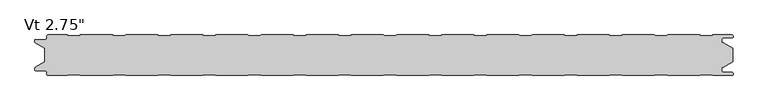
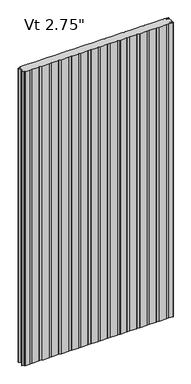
"""IFC4 building model written with IfcOpenShell, lengths in millimetres: plate geometry."""

from ifc_helpers import new_model, si_unit, frame, origin, place, context, project, spatial, polyline, circle_curve, source, transform, mapped, element, save
from ifc_brep_helpers import plane_surface, cylinder_surface, revolved_surface, advanced_brep


def plate_316c0869(model_context):
    return source(origin(), model_context, "Body", "AdvancedBrep", [
        advanced_brep(
        [(521.5205195, -67.7088405, 2400.0), (541.3035142, -67.7088405, 2400.0), (542.3760351, -68.8999956, 2400.0), (574.5475652, -68.8999956, 2400.0), (576.5248337, -66.9227271, 2400.0), (576.5248337, -65.8806285, 2400.0), (574.5475652, -63.90336, 2400.0), (560.3591802, -63.90336, 2400.0), (557.7713036, -61.3154835, 2400.0), (557.7713036, -56.9950653, 2400.0), (557.1628365, -56.4060718, 2400.0), (554.7857432, -56.4060718, 2400.0), (554.7857432, -55.4065979, 2400.0), (560.2280123, -55.4065979, 2400.0), (576.2625, -46.1490821, 2400.0), (576.2625, -23.7509179, 2400.0), (560.2280123, -14.4934021, 2400.0), (554.7857432, -14.4934021, 2400.0), (554.7857432, -13.4939282, 2400.0), (557.1628365, -13.4939282, 2400.0), (557.7713036, -12.9049347, 2400.0), (557.7713036, -8.5845165, 2400.0), (560.3591802, -5.99664, 2400.0), (574.5475652, -5.99664, 2400.0), (576.5248337, -4.0193715, 2400.0), (576.5248337, -2.9772729, 2400.0), (574.5475652, -1.0000044, 2400.0), (542.3760351, -1.0000044, 2400.0), (541.3035142, -2.1911595, 2400.0), (521.5205195, -2.1911595, 2400.0), (520.4479947, -1.0, 2400.0), (466.7534187, -1.0, 2400.0), (465.6808939, -2.1911595, 2400.0), (445.8978992, -2.1911595, 2400.0), (444.8253744, -1.0, 2400.0), (391.1307985, -1.0, 2400.0), (390.0582736, -2.1911595, 2400.0), (370.275279, -2.1911595, 2400.0), (369.2027541, -1.0, 2400.0), (315.5081782, -1.0, 2400.0), (314.4356534, -2.1911595, 2400.0), (294.6526587, -2.1911595, 2400.0), (293.5801339, -1.0, 2400.0), (239.885558, -1.0, 2400.0), (238.8130331, -2.1911595, 2400.0), (219.0300384, -2.1911595, 2400.0), (217.9575136, -1.0, 2400.0), (164.2629377, -1.0, 2400.0), (163.1904129, -2.1911595, 2400.0), (143.4074182, -2.1911595, 2400.0), (142.3348933, -1.0, 2400.0), (88.6403174, -1.0, 2400.0), (87.5677926, -2.1911595, 2400.0), (67.7847979, -2.1911595, 2400.0), (66.7122731, -1.0, 2400.0), (13.0176972, -1.0, 2400.0), (11.9451723, -2.1911595, 2400.0), (-7.8378224, -2.1911595, 2400.0), (-8.9103472, -1.0, 2400.0), (-62.6049231, -1.0, 2400.0), (-63.6774479, -2.1911595, 2400.0), (-83.4604426, -2.1911595, 2400.0), (-84.5329675, -1.0, 2400.0), (-138.2275434, -1.0, 2400.0), (-139.3000682, -2.1911595, 2400.0), (-159.0830629, -2.1911595, 2400.0), (-160.1555877, -1.0, 2400.0), (-213.8501636, -1.0, 2400.0), (-214.9226885, -2.1911595, 2400.0), (-234.7056831, -2.1911595, 2400.0), (-235.778208, -1.0, 2400.0), (-289.4727839, -1.0, 2400.0), (-290.5453087, -2.1911595, 2400.0), (-310.3283034, -2.1911595, 2400.0), (-311.4008282, -1.0, 2400.0), (-365.0954042, -1.0, 2400.0), (-366.167929, -2.1911595, 2400.0), (-385.9509237, -2.1911595, 2400.0), (-387.0234485, -1.0, 2400.0), (-440.7180244, -1.0, 2400.0), (-441.7905493, -2.1911595, 2400.0), (-461.5735439, -2.1911595, 2400.0), (-462.6460688, -1.0, 2400.0), (-516.3406447, -1.0, 2400.0), (-517.4131695, -2.1911595, 2400.0), (-537.1961642, -2.1911595, 2400.0), (-538.268689, -1.0000109, 2400.0), (-570.4352761, -1.0000109, 2400.0), (-572.4125501, -2.9772849, 2400.0), (-572.4125501, -5.2691749, 2400.0), (-576.3898173, -9.246442, 2400.0), (-591.9862417, -9.246442, 2400.0), (-592.5741186, -9.8343189, 2400.0), (-592.5741186, -12.9058679, 2400.0), (-591.986242, -13.4937446, 2400.0), (-589.6312064, -13.4937446, 2400.0), (-589.6312064, -14.4937446, 2400.0), (-591.9207851, -14.4937446, 2400.0), (-576.2625, -23.7509179, 2400.0), (-576.2625, -46.1490865, 2400.0), (-591.9207851, -55.4062554, 2400.0), (-589.6312064, -55.4062554, 2400.0), (-589.6312064, -56.4062554, 2400.0), (-591.986242, -56.4062554, 2400.0), (-592.5741186, -56.9941321, 2400.0), (-592.5741186, -60.0656811, 2400.0), (-591.9862417, -60.653558, 2400.0), (-576.3898173, -60.653558, 2400.0), (-572.4125501, -64.6308251, 2400.0), (-572.4125501, -66.9227151, 2400.0), (-570.4352761, -68.8999891, 2400.0), (-538.268689, -68.8999891, 2400.0), (-537.1961642, -67.7088405, 2400.0), (-517.4131695, -67.7088405, 2400.0), (-516.3406447, -68.9, 2400.0), (-462.6460688, -68.9, 2400.0), (-461.5735439, -67.7088405, 2400.0), (-441.7905493, -67.7088405, 2400.0), (-440.7180244, -68.9, 2400.0), (-387.0234485, -68.9, 2400.0), (-385.9509237, -67.7088405, 2400.0), (-366.167929, -67.7088405, 2400.0), (-365.0954042, -68.9, 2400.0), (-311.4008282, -68.9, 2400.0), (-310.3283034, -67.7088405, 2400.0), (-290.5453087, -67.7088405, 2400.0), (-289.4727839, -68.9, 2400.0), (-235.778208, -68.9, 2400.0), (-234.7056831, -67.7088405, 2400.0), (-214.9226885, -67.7088405, 2400.0), (-213.8501636, -68.9, 2400.0), (-160.1555877, -68.9, 2400.0), (-159.0830629, -67.7088405, 2400.0), (-139.3000682, -67.7088405, 2400.0), (-138.2275434, -68.9, 2400.0), (-84.5329675, -68.9, 2400.0), (-83.4604426, -67.7088405, 2400.0), (-63.6774479, -67.7088405, 2400.0), (-62.6049231, -68.9, 2400.0), (-8.9103472, -68.9, 2400.0), (-7.8378224, -67.7088405, 2400.0), (11.9451723, -67.7088405, 2400.0), (13.0176972, -68.9, 2400.0), (66.7122731, -68.9, 2400.0), (67.7847979, -67.7088405, 2400.0), (87.5677926, -67.7088405, 2400.0), (88.6403174, -68.9, 2400.0), (142.3348933, -68.9, 2400.0), (143.4074182, -67.7088405, 2400.0), (163.1904129, -67.7088405, 2400.0), (164.2629377, -68.9, 2400.0), (217.9575136, -68.9, 2400.0), (219.0300384, -67.7088405, 2400.0), (238.8130331, -67.7088405, 2400.0), (239.885558, -68.9, 2400.0), (293.5801339, -68.9, 2400.0), (294.6526587, -67.7088405, 2400.0), (314.4356534, -67.7088405, 2400.0), (315.5081782, -68.9, 2400.0), (369.2027541, -68.9, 2400.0), (370.275279, -67.7088405, 2400.0), (390.0582736, -67.7088405, 2400.0), (391.1307985, -68.9, 2400.0), (444.8253744, -68.9, 2400.0), (445.8978992, -67.7088405, 2400.0), (465.6808939, -67.7088405, 2400.0), (466.7534187, -68.9, 2400.0), (520.4479947, -68.9, 2400.0), (521.5205195, -67.7088405, 0.0), (520.4479947, -68.9, 0.0), (466.7534187, -68.9, 0.0), (465.6808939, -67.7088405, 0.0), (445.8978992, -67.7088405, 0.0), (444.8253744, -68.9, 0.0), (391.1307985, -68.9, 0.0), (390.0582736, -67.7088405, 0.0), (370.275279, -67.7088405, 0.0), (369.2027541, -68.9, 0.0), (315.5081782, -68.9, 0.0), (314.4356534, -67.7088405, 0.0), (294.6526587, -67.7088405, 0.0), (293.5801339, -68.9, 0.0), (239.885558, -68.9, 0.0), (238.8130331, -67.7088405, 0.0), (219.0300384, -67.7088405, 0.0), (217.9575136, -68.9, 0.0), (164.2629377, -68.9, 0.0), (163.1904129, -67.7088405, 0.0), (143.4074182, -67.7088405, 0.0), (142.3348933, -68.9, 0.0), (88.6403174, -68.9, 0.0), (87.5677926, -67.7088405, 0.0), (67.7847979, -67.7088405, 0.0), (66.7122731, -68.9, 0.0), (13.0176972, -68.9, 0.0), (11.9451723, -67.7088405, 0.0), (-7.8378224, -67.7088405, 0.0), (-8.9103472, -68.9, 0.0), (-62.6049231, -68.9, 0.0), (-63.6774479, -67.7088405, 0.0), (-83.4604426, -67.7088405, 0.0), (-84.5329675, -68.9, 0.0), (-138.2275434, -68.9, 0.0), (-139.3000682, -67.7088405, 0.0), (-159.0830629, -67.7088405, 0.0), (-160.1555877, -68.9, 0.0), (-213.8501636, -68.9, 0.0), (-214.9226885, -67.7088405, 0.0), (-234.7056831, -67.7088405, 0.0), (-235.778208, -68.9, 0.0), (-289.4727839, -68.9, 0.0), (-290.5453087, -67.7088405, 0.0), (-310.3283034, -67.7088405, 0.0), (-311.4008282, -68.9, 0.0), (-365.0954042, -68.9, 0.0), (-366.167929, -67.7088405, 0.0), (-385.9509237, -67.7088405, 0.0), (-387.0234485, -68.9, 0.0), (-440.7180244, -68.9, 0.0), (-441.7905493, -67.7088405, 0.0), (-461.5735439, -67.7088405, 0.0), (-462.6460688, -68.9, 0.0), (-516.3406447, -68.9, 0.0), (-517.4131695, -67.7088405, 0.0), (-537.1961642, -67.7088405, 0.0), (-538.268689, -68.8999891, 0.0), (-570.4352761, -68.8999891, 0.0), (-572.4125501, -66.9227151, 0.0), (-572.4125501, -64.6308251, 0.0), (-576.3898173, -60.653558, 0.0), (-591.9862417, -60.653558, 0.0), (-592.5741186, -60.0656811, 0.0), (-592.5741186, -56.9941321, 0.0), (-591.986242, -56.4062554, 0.0), (-589.6312064, -56.4062554, 0.0), (-589.6312064, -55.4062554, 0.0), (-591.9207851, -55.4062554, 0.0), (-576.2625, -46.1490821, 0.0), (-576.2625, -23.7509179, 0.0), (-591.9207851, -14.4937446, 0.0), (-589.6312064, -14.4937446, 0.0), (-589.6312064, -13.4937446, 0.0), (-591.986242, -13.4937446, 0.0), (-592.5741186, -12.9058679, 0.0), (-592.5741186, -9.8343189, 0.0), (-591.9862417, -9.246442, 0.0), (-576.3898173, -9.246442, 0.0), (-572.4125501, -5.2691749, 0.0), (-572.4125501, -2.9772849, 0.0), (-570.4352761, -1.0000109, 0.0), (-538.268689, -1.0000109, 0.0), (-537.1961642, -2.1911595, 0.0), (-517.4131695, -2.1911595, 0.0), (-516.3406447, -1.0, 0.0), (-462.6460688, -1.0, 0.0), (-461.5735439, -2.1911595, 0.0), (-441.7905493, -2.1911595, 0.0), (-440.7180244, -1.0, 0.0), (-387.0234485, -1.0, 0.0), (-385.9509237, -2.1911595, 0.0), (-366.167929, -2.1911595, 0.0), (-365.0954042, -1.0, 0.0), (-311.4008282, -1.0, 0.0), (-310.3283034, -2.1911595, 0.0), (-290.5453087, -2.1911595, 0.0), (-289.4727839, -1.0, 0.0), (-235.778208, -1.0, 0.0), (-234.7056831, -2.1911595, 0.0), (-214.9226885, -2.1911595, 0.0), (-213.8501636, -1.0, 0.0), (-160.1555877, -1.0, 0.0), (-159.0830629, -2.1911595, 0.0), (-139.3000682, -2.1911595, 0.0), (-138.2275434, -1.0, 0.0), (-84.5329675, -1.0, 0.0), (-83.4604426, -2.1911595, 0.0), (-63.6774479, -2.1911595, 0.0), (-62.6049231, -1.0, 0.0), (-8.9103472, -1.0, 0.0), (-7.8378224, -2.1911595, 0.0), (11.9451723, -2.1911595, 0.0), (13.0176972, -1.0, 0.0), (66.7122731, -1.0, 0.0), (67.7847979, -2.1911595, 0.0), (87.5677926, -2.1911595, 0.0), (88.6403174, -1.0, 0.0), (142.3348933, -1.0, 0.0), (143.4074182, -2.1911595, 0.0), (163.1904129, -2.1911595, 0.0), (164.2629377, -1.0, 0.0), (217.9575136, -1.0, 0.0), (219.0300384, -2.1911595, 0.0), (238.8130331, -2.1911595, 0.0), (239.885558, -1.0, 0.0), (293.5801339, -1.0, 0.0), (294.6526587, -2.1911595, 0.0), (314.4356534, -2.1911595, 0.0), (315.5081782, -1.0, 0.0), (369.2027541, -1.0, 0.0), (370.275279, -2.1911595, 0.0), (390.0582736, -2.1911595, 0.0), (391.1307985, -1.0, 0.0), (444.8253744, -1.0, 0.0), (445.8978992, -2.1911595, 0.0), (465.6808939, -2.1911595, 0.0), (466.7534187, -1.0, 0.0), (520.4479947, -1.0, 0.0), (521.5205195, -2.1911595, 0.0), (541.3035142, -2.1911595, 0.0), (542.3760351, -1.0000044, 0.0), (574.5475652, -1.0000044, 0.0), (576.5248337, -2.9772729, 0.0), (576.5248337, -4.0193715, 0.0), (574.5475652, -5.99664, 0.0), (560.3591802, -5.99664, 0.0), (557.7713036, -8.5845165, 0.0), (557.7713036, -12.9049347, 0.0), (557.1628365, -13.4939282, 0.0), (554.7857432, -13.4939282, 0.0), (554.7857432, -14.4934021, 0.0), (560.2280123, -14.4934021, 0.0), (576.2625, -23.7509179, 0.0), (576.2625, -46.1490865, 0.0), (560.2280123, -55.4065979, 0.0), (554.7857432, -55.4065979, 0.0), (554.7857432, -56.4060718, 0.0), (557.1628365, -56.4060718, 0.0), (557.7713036, -56.9950653, 0.0), (557.7713036, -61.3154835, 0.0), (560.3591802, -63.90336, 0.0), (574.5475652, -63.90336, 0.0), (576.5248337, -65.8806285, 0.0), (576.5248337, -66.9227271, 0.0), (574.5475652, -68.8999956, 0.0), (542.3760351, -68.8999956, 0.0), (541.3035142, -67.7088405, 0.0)],
        [
            (0, 1),
            (1, 2),
            (2, 3),
            (3, 4, circle_curve(frame((574.5475652, -66.9227271, 2400.0), z_axis=(0.0, 0.0, 1.0), x_axis=(-1.0, 0.0, 0.0)), 1.9772685)),
            (4, 5),
            (5, 6, circle_curve(frame((574.5475652, -65.8806285, 2400.0), z_axis=(0.0, 0.0, 1.0), x_axis=(-1.0, 0.0, 0.0)), 1.9772685)),
            (6, 7),
            (7, 8, circle_curve(frame((560.3591802, -61.3154835, 2400.0), z_axis=(0.0, 0.0, -1.0), x_axis=(-1.0, 0.0, 0.0)), 2.5878765)),
            (8, 9),
            (9, 10, circle_curve(frame((557.1819985, -56.9950653, 2400.0), z_axis=(0.0, 0.0, 1.0), x_axis=(-1.0, 0.0, 0.0)), 0.5893051)),
            (10, 11),
            (11, 12),
            (12, 13),
            (13, 14),
            (14, 15),
            (15, 16),
            (16, 17),
            (17, 18),
            (18, 19),
            (19, 20, circle_curve(frame((557.1819985, -12.9049347, 2400.0), z_axis=(0.0, 0.0, 1.0), x_axis=(0.0, 1.0, 0.0)), 0.5893051)),
            (20, 21),
            (21, 22, circle_curve(frame((560.3591802, -8.5845165, 2400.0), z_axis=(0.0, 0.0, -1.0), x_axis=(0.0, 1.0, 0.0)), 2.5878765)),
            (22, 23),
            (23, 24, circle_curve(frame((574.5475652, -4.0193715, 2400.0), z_axis=(0.0, 0.0, 1.0), x_axis=(0.0, 1.0, 0.0)), 1.9772685)),
            (24, 25),
            (25, 26, circle_curve(frame((574.5475652, -2.9772729, 2400.0), z_axis=(0.0, 0.0, 1.0), x_axis=(0.0, 1.0, 0.0)), 1.9772685)),
            (26, 27),
            (27, 28),
            (28, 29),
            (29, 30),
            (30, 31),
            (31, 32),
            (32, 33),
            (33, 34),
            (34, 35),
            (35, 36),
            (36, 37),
            (37, 38),
            (38, 39),
            (39, 40),
            (40, 41),
            (41, 42),
            (42, 43),
            (43, 44),
            (44, 45),
            (45, 46),
            (46, 47),
            (47, 48),
            (48, 49),
            (49, 50),
            (50, 51),
            (51, 52),
            (52, 53),
            (53, 54),
            (54, 55),
            (55, 56),
            (56, 57),
            (57, 58),
            (58, 59),
            (59, 60),
            (60, 61),
            (61, 62),
            (62, 63),
            (63, 64),
            (64, 65),
            (65, 66),
            (66, 67),
            (67, 68),
            (68, 69),
            (69, 70),
            (70, 71),
            (71, 72),
            (72, 73),
            (73, 74),
            (74, 75),
            (75, 76),
            (76, 77),
            (77, 78),
            (78, 79),
            (79, 80),
            (80, 81),
            (81, 82),
            (82, 83),
            (83, 84),
            (84, 85),
            (85, 86),
            (86, 87),
            (87, 88, circle_curve(frame((-570.4352761, -2.9772849, 2400.0), z_axis=(0.0, 0.0, 1.0), x_axis=(0.0, 1.0, 0.0)), 1.977274)),
            (88, 89),
            (89, 90, circle_curve(frame((-576.3898173, -5.2691749, 2400.0), z_axis=(0.0, 0.0, -1.0), x_axis=(0.0, 1.0, 0.0)), 3.9772671)),
            (90, 91),
            (91, 92, circle_curve(frame((-591.9862417, -9.8343189, 2400.0), z_axis=(0.0, 0.0, 1.0), x_axis=(0.0, 1.0, 0.0)), 0.5878769)),
            (92, 93),
            (93, 94, circle_curve(frame((-591.986242, -12.9058679, 2400.0), z_axis=(0.0, 0.0, 1.0), x_axis=(0.0, 1.0, 0.0)), 0.5878766)),
            (94, 95),
            (95, 96),
            (96, 97),
            (97, 98),
            (98, 99),
            (99, 100),
            (100, 101),
            (101, 102),
            (102, 103),
            (103, 104, circle_curve(frame((-591.986242, -56.9941321, 2400.0), z_axis=(0.0, 0.0, 1.0), x_axis=(-1.0, 0.0, 0.0)), 0.5878766)),
            (104, 105),
            (105, 106, circle_curve(frame((-591.9862417, -60.0656811, 2400.0), z_axis=(0.0, 0.0, 1.0), x_axis=(-1.0, 0.0, 0.0)), 0.5878769)),
            (106, 107),
            (107, 108, circle_curve(frame((-576.3898173, -64.6308251, 2400.0), z_axis=(0.0, 0.0, -1.0), x_axis=(-1.0, 0.0, 0.0)), 3.9772671)),
            (108, 109),
            (109, 110, circle_curve(frame((-570.4352761, -66.9227151, 2400.0), z_axis=(0.0, 0.0, 1.0), x_axis=(-1.0, 0.0, 0.0)), 1.977274)),
            (110, 111),
            (111, 112),
            (112, 113),
            (113, 114),
            (114, 115),
            (115, 116),
            (116, 117),
            (117, 118),
            (118, 119),
            (119, 120),
            (120, 121),
            (121, 122),
            (122, 123),
            (123, 124),
            (124, 125),
            (125, 126),
            (126, 127),
            (127, 128),
            (128, 129),
            (129, 130),
            (130, 131),
            (131, 132),
            (132, 133),
            (133, 134),
            (134, 135),
            (135, 136),
            (136, 137),
            (137, 138),
            (138, 139),
            (139, 140),
            (140, 141),
            (141, 142),
            (142, 143),
            (143, 144),
            (144, 145),
            (145, 146),
            (146, 147),
            (147, 148),
            (148, 149),
            (149, 150),
            (150, 151),
            (151, 152),
            (152, 153),
            (153, 154),
            (154, 155),
            (155, 156),
            (156, 157),
            (157, 158),
            (158, 159),
            (159, 160),
            (160, 161),
            (161, 162),
            (162, 163),
            (163, 164),
            (164, 165),
            (165, 166),
            (166, 167),
            (167, 0),
            (168, 169),
            (169, 170),
            (170, 171),
            (171, 172),
            (172, 173),
            (173, 174),
            (174, 175),
            (175, 176),
            (176, 177),
            (177, 178),
            (178, 179),
            (179, 180),
            (180, 181),
            (181, 182),
            (182, 183),
            (183, 184),
            (184, 185),
            (185, 186),
            (186, 187),
            (187, 188),
            (188, 189),
            (189, 190),
            (190, 191),
            (191, 192),
            (192, 193),
            (193, 194),
            (194, 195),
            (195, 196),
            (196, 197),
            (197, 198),
            (198, 199),
            (199, 200),
            (200, 201),
            (201, 202),
            (202, 203),
            (203, 204),
            (204, 205),
            (205, 206),
            (206, 207),
            (207, 208),
            (208, 209),
            (209, 210),
            (210, 211),
            (211, 212),
            (212, 213),
            (213, 214),
            (214, 215),
            (215, 216),
            (216, 217),
            (217, 218),
            (218, 219),
            (219, 220),
            (220, 221),
            (221, 222),
            (222, 223),
            (223, 224),
            (224, 225),
            (225, 226),
            (226, 227, circle_curve(frame((-570.4352761, -66.9227151, 0.0), z_axis=(0.0, 0.0, -1.0), x_axis=(-1.0, 0.0, 0.0)), 1.977274)),
            (227, 228),
            (228, 229, circle_curve(frame((-576.3898173, -64.6308251, 0.0), z_axis=(0.0, 0.0, 1.0), x_axis=(-1.0, 0.0, 0.0)), 3.9772671)),
            (229, 230),
            (230, 231, circle_curve(frame((-591.9862417, -60.0656811, 0.0), z_axis=(0.0, 0.0, -1.0), x_axis=(-1.0, 0.0, 0.0)), 0.5878769)),
            (231, 232),
            (232, 233, circle_curve(frame((-591.986242, -56.9941321, 0.0), z_axis=(0.0, 0.0, -1.0), x_axis=(-1.0, 0.0, 0.0)), 0.5878766)),
            (233, 234),
            (234, 235),
            (235, 236),
            (236, 237),
            (237, 238),
            (238, 239),
            (239, 240),
            (240, 241),
            (241, 242),
            (242, 243, circle_curve(frame((-591.986242, -12.9058679, 0.0), z_axis=(0.0, 0.0, -1.0), x_axis=(0.0, 1.0, 0.0)), 0.5878766)),
            (243, 244),
            (244, 245, circle_curve(frame((-591.9862417, -9.8343189, 0.0), z_axis=(0.0, 0.0, -1.0), x_axis=(0.0, 1.0, 0.0)), 0.5878769)),
            (245, 246),
            (246, 247, circle_curve(frame((-576.3898173, -5.2691749, 0.0), z_axis=(0.0, 0.0, 1.0), x_axis=(0.0, 1.0, 0.0)), 3.9772671)),
            (247, 248),
            (248, 249, circle_curve(frame((-570.4352761, -2.9772849, 0.0), z_axis=(0.0, 0.0, -1.0), x_axis=(0.0, 1.0, 0.0)), 1.977274)),
            (249, 250),
            (250, 251),
            (251, 252),
            (252, 253),
            (253, 254),
            (254, 255),
            (255, 256),
            (256, 257),
            (257, 258),
            (258, 259),
            (259, 260),
            (260, 261),
            (261, 262),
            (262, 263),
            (263, 264),
            (264, 265),
            (265, 266),
            (266, 267),
            (267, 268),
            (268, 269),
            (269, 270),
            (270, 271),
            (271, 272),
            (272, 273),
            (273, 274),
            (274, 275),
            (275, 276),
            (276, 277),
            (277, 278),
            (278, 279),
            (279, 280),
            (280, 281),
            (281, 282),
            (282, 283),
            (283, 284),
            (284, 285),
            (285, 286),
            (286, 287),
            (287, 288),
            (288, 289),
            (289, 290),
            (290, 291),
            (291, 292),
            (292, 293),
            (293, 294),
            (294, 295),
            (295, 296),
            (296, 297),
            (297, 298),
            (298, 299),
            (299, 300),
            (300, 301),
            (301, 302),
            (302, 303),
            (303, 304),
            (304, 305),
            (305, 306),
            (306, 307),
            (307, 308),
            (308, 309),
            (309, 310),
            (310, 311, circle_curve(frame((574.5475652, -2.9772729, 0.0), z_axis=(0.0, 0.0, -1.0), x_axis=(0.0, 1.0, 0.0)), 1.9772685)),
            (311, 312),
            (312, 313, circle_curve(frame((574.5475652, -4.0193715, 0.0), z_axis=(0.0, 0.0, -1.0), x_axis=(0.0, 1.0, 0.0)), 1.9772685)),
            (313, 314),
            (314, 315, circle_curve(frame((560.3591802, -8.5845165, 0.0), z_axis=(0.0, 0.0, 1.0), x_axis=(0.0, 1.0, 0.0)), 2.5878765)),
            (315, 316),
            (316, 317, circle_curve(frame((557.1819985, -12.9049347, 0.0), z_axis=(0.0, 0.0, -1.0), x_axis=(0.0, 1.0, 0.0)), 0.5893051)),
            (317, 318),
            (318, 319),
            (319, 320),
            (320, 321),
            (321, 322),
            (322, 323),
            (323, 324),
            (324, 325),
            (325, 326),
            (326, 327, circle_curve(frame((557.1819985, -56.9950653, 0.0), z_axis=(0.0, 0.0, -1.0), x_axis=(-1.0, 0.0, 0.0)), 0.5893051)),
            (327, 328),
            (328, 329, circle_curve(frame((560.3591802, -61.3154835, 0.0), z_axis=(0.0, 0.0, 1.0), x_axis=(-1.0, 0.0, 0.0)), 2.5878765)),
            (329, 330),
            (330, 331, circle_curve(frame((574.5475652, -65.8806285, 0.0), z_axis=(0.0, 0.0, -1.0), x_axis=(-1.0, 0.0, 0.0)), 1.9772685)),
            (331, 332),
            (332, 333, circle_curve(frame((574.5475652, -66.9227271, 0.0), z_axis=(0.0, 0.0, -1.0), x_axis=(-1.0, 0.0, 0.0)), 1.9772685)),
            (333, 334),
            (334, 335),
            (335, 168),
            (98, 238),
            (237, 99),
            (14, 322),
            (321, 15),
            (28, 308),
            (307, 29),
            (27, 309),
            (26, 310),
            (25, 311),
            (24, 312),
            (23, 313),
            (22, 314),
            (21, 315),
            (20, 316),
            (19, 317),
            (18, 318),
            (17, 319),
            (16, 320),
            (97, 239),
            (96, 240),
            (95, 241),
            (94, 242),
            (93, 243),
            (92, 244),
            (91, 245),
            (90, 246),
            (89, 247),
            (88, 248),
            (87, 249),
            (86, 250),
            (85, 251),
            (84, 252),
            (83, 253),
            (82, 254),
            (81, 255),
            (80, 256),
            (79, 257),
            (78, 258),
            (77, 259),
            (76, 260),
            (75, 261),
            (74, 262),
            (73, 263),
            (72, 264),
            (71, 265),
            (70, 266),
            (69, 267),
            (68, 268),
            (67, 269),
            (66, 270),
            (65, 271),
            (64, 272),
            (63, 273),
            (62, 274),
            (61, 275),
            (60, 276),
            (59, 277),
            (58, 278),
            (57, 279),
            (56, 280),
            (55, 281),
            (54, 282),
            (53, 283),
            (52, 284),
            (51, 285),
            (50, 286),
            (49, 287),
            (48, 288),
            (47, 289),
            (46, 290),
            (45, 291),
            (44, 292),
            (43, 293),
            (42, 294),
            (41, 295),
            (40, 296),
            (39, 297),
            (38, 298),
            (37, 299),
            (36, 300),
            (35, 301),
            (34, 302),
            (33, 303),
            (32, 304),
            (31, 305),
            (30, 306),
            (167, 169),
            (168, 0),
            (166, 170),
            (165, 171),
            (164, 172),
            (163, 173),
            (162, 174),
            (161, 175),
            (160, 176),
            (159, 177),
            (158, 178),
            (157, 179),
            (156, 180),
            (155, 181),
            (154, 182),
            (153, 183),
            (152, 184),
            (151, 185),
            (150, 186),
            (149, 187),
            (148, 188),
            (147, 189),
            (146, 190),
            (145, 191),
            (144, 192),
            (143, 193),
            (142, 194),
            (141, 195),
            (140, 196),
            (139, 197),
            (138, 198),
            (137, 199),
            (136, 200),
            (135, 201),
            (134, 202),
            (133, 203),
            (132, 204),
            (131, 205),
            (130, 206),
            (129, 207),
            (128, 208),
            (127, 209),
            (126, 210),
            (125, 211),
            (124, 212),
            (123, 213),
            (122, 214),
            (121, 215),
            (120, 216),
            (119, 217),
            (118, 218),
            (117, 219),
            (116, 220),
            (115, 221),
            (114, 222),
            (113, 223),
            (112, 224),
            (111, 225),
            (110, 226),
            (109, 227),
            (108, 228),
            (107, 229),
            (106, 230),
            (105, 231),
            (104, 232),
            (103, 233),
            (102, 234),
            (101, 235),
            (100, 236),
            (13, 323),
            (12, 324),
            (11, 325),
            (10, 326),
            (9, 327),
            (8, 328),
            (7, 329),
            (6, 330),
            (5, 331),
            (4, 332),
            (3, 333),
            (2, 334),
            (1, 335),
        ],
        [
            plane_surface(frame((0.0, -68.9, 2400.0), z_axis=(0.0, 0.0, 1.0), x_axis=(0.0, -1.0, 0.0))),
            plane_surface(frame((0.0, -68.9, 0.0), z_axis=(0.0, 0.0, -1.0), x_axis=(0.0, -1.0, 0.0))),
            plane_surface(frame((-576.2625, -46.1490865, 2400.0), z_axis=(-1.0, 0.0, 0.0), x_axis=(0.0, 0.0, -1.0))),
            plane_surface(frame((576.2625, -23.7509179, 2400.0), z_axis=(1.0, 0.0, 0.0), x_axis=(0.0, 0.0, -1.0))),
            plane_surface(frame((521.5205195, -2.1911595, 2400.0), z_axis=(0.0, 1.0, 0.0), x_axis=(0.0, 0.0, -1.0))),
            plane_surface(frame((541.3035142, -2.1911595, 2400.0), z_axis=(-0.7431448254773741, 0.6691306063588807, 0.0), x_axis=(0.0, 0.0, -1.0))),
            plane_surface(frame((542.3760351, -1.0000044, 2400.0), z_axis=(0.0, 1.0, 0.0), x_axis=(0.0, 0.0, -1.0))),
            cylinder_surface(frame((574.5475652, -2.9772729, 2400.0), z_axis=(0.0, 0.0, 1.0), x_axis=(0.0, 1.0, 0.0)), 1.9772685),
            plane_surface(frame((576.5248337, -2.9772729, 2400.0), z_axis=(1.0, 0.0, 0.0), x_axis=(0.0, 0.0, -1.0))),
            cylinder_surface(frame((574.5475652, -4.0193715, 2400.0), z_axis=(0.0, 0.0, 1.0), x_axis=(0.0, 1.0, 0.0)), 1.9772685),
            plane_surface(frame((574.5475652, -5.99664, 2400.0), z_axis=(0.0, -1.0, 0.0), x_axis=(0.0, 0.0, -1.0))),
            revolved_surface(polyline([(560.3591802, -5.996639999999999, 0.0), (560.3591802, -5.996639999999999, 2400.0)]), (560.3591802, -8.5845165, 2400.0), (0.0, 0.0, -1.0)),
            plane_surface(frame((557.7713036, -8.5845165, 2400.0), z_axis=(1.0, 0.0, 0.0), x_axis=(0.0, 0.0, -1.0))),
            cylinder_surface(frame((557.1819985, -12.9049347, 2400.0), z_axis=(0.0, 0.0, 1.0), x_axis=(0.0, 1.0, 0.0)), 0.5893051),
            plane_surface(frame((557.1628365, -13.4939282, 2400.0), z_axis=(0.0, -1.0, 0.0), x_axis=(0.0, 0.0, -1.0))),
            plane_surface(frame((554.7857432, -13.4939282, 2400.0), z_axis=(1.0, 0.0, 0.0), x_axis=(0.0, 0.0, -1.0))),
            plane_surface(frame((554.7857432, -14.4934021, 2400.0), z_axis=(0.0, 1.0, 0.0), x_axis=(0.0, 0.0, -1.0))),
            plane_surface(frame((560.2280123, -14.4934021, 2400.0), z_axis=(0.5000000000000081, 0.866025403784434, 0.0), x_axis=(0.0, 0.0, -1.0))),
            plane_surface(frame((-576.2625, -23.7509179, 2400.0), z_axis=(-0.5089147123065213, -0.860816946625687, 0.0), x_axis=(0.0, 0.0, -1.0))),
            plane_surface(frame((-591.9207851, -14.4937446, 2400.0), z_axis=(0.0, 1.0, 0.0), x_axis=(0.0, 0.0, -1.0))),
            plane_surface(frame((-589.6312064, -14.4937446, 2400.0), z_axis=(-1.0, 0.0, 0.0), x_axis=(0.0, 0.0, -1.0))),
            plane_surface(frame((-589.6312064, -13.4937446, 2400.0), z_axis=(0.0, -1.0, 0.0), x_axis=(0.0, 0.0, -1.0))),
            cylinder_surface(frame((-591.986242, -12.9058679, 2400.0), z_axis=(0.0, 0.0, 1.0), x_axis=(0.0, 1.0, 0.0)), 0.5878766),
            plane_surface(frame((-592.5741186, -12.9058679, 2400.0), z_axis=(-1.0, 0.0, 0.0), x_axis=(0.0, 0.0, -1.0))),
            cylinder_surface(frame((-591.9862417, -9.8343189, 2400.0), z_axis=(0.0, 0.0, 1.0), x_axis=(0.0, 1.0, 0.0)), 0.5878769),
            plane_surface(frame((-591.9862417, -9.246442, 2400.0), z_axis=(0.0, 1.0, 0.0), x_axis=(0.0, 0.0, -1.0))),
            revolved_surface(polyline([(-576.3898173, -1.2919078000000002, 0.0), (-576.3898173, -1.2919078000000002, 2400.0)]), (-576.3898173, -5.2691749, 2400.0), (0.0, 0.0, -1.0)),
            plane_surface(frame((-572.4125501, -5.2691749, 2400.0), z_axis=(-1.0, 0.0, 0.0), x_axis=(0.0, 0.0, -1.0))),
            cylinder_surface(frame((-570.4352761, -2.9772849, 2400.0), z_axis=(0.0, 0.0, 1.0), x_axis=(0.0, 1.0, 0.0)), 1.977274),
            plane_surface(frame((-570.4352761, -1.0000109, 2400.0), z_axis=(0.0, 1.0, 0.0), x_axis=(0.0, 0.0, -1.0))),
            plane_surface(frame((-538.268689, -1.0000109, 2400.0), z_axis=(0.7431417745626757, 0.669133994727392, 0.0), x_axis=(0.0, 0.0, -1.0))),
            plane_surface(frame((-537.1961642, -2.1911595, 2400.0), z_axis=(0.0, 1.0, 0.0), x_axis=(0.0, 0.0, -1.0))),
            plane_surface(frame((-517.4131695, -2.1911595, 2400.0), z_axis=(-0.7431448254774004, 0.6691306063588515, 0.0), x_axis=(0.0, 0.0, -1.0))),
            plane_surface(frame((-516.3406447, -1.0, 2400.0), z_axis=(0.0, 1.0, 0.0), x_axis=(0.0, 0.0, -1.0))),
            plane_surface(frame((-462.6460688, -1.0, 2400.0), z_axis=(0.7431448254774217, 0.6691306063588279, 0.0), x_axis=(0.0, 0.0, -1.0))),
            plane_surface(frame((-461.5735439, -2.1911595, 2400.0), z_axis=(0.0, 1.0, 0.0), x_axis=(0.0, 0.0, -1.0))),
            plane_surface(frame((-441.7905493, -2.1911595, 2400.0), z_axis=(-0.7431448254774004, 0.6691306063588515, 0.0), x_axis=(0.0, 0.0, -1.0))),
            plane_surface(frame((-440.7180244, -1.0, 2400.0), z_axis=(0.0, 1.0, 0.0), x_axis=(0.0, 0.0, -1.0))),
            plane_surface(frame((-387.0234485, -1.0, 2400.0), z_axis=(0.7431448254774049, 0.6691306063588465, 0.0), x_axis=(0.0, 0.0, -1.0))),
            plane_surface(frame((-385.9509237, -2.1911595, 2400.0), z_axis=(0.0, 1.0, 0.0), x_axis=(0.0, 0.0, -1.0))),
            plane_surface(frame((-366.167929, -2.1911595, 2400.0), z_axis=(-0.7431448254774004, 0.6691306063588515, 0.0), x_axis=(0.0, 0.0, -1.0))),
            plane_surface(frame((-365.0954042, -1.0, 2400.0), z_axis=(0.0, 1.0, 0.0), x_axis=(0.0, 0.0, -1.0))),
            plane_surface(frame((-311.4008282, -1.0, 2400.0), z_axis=(0.7431448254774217, 0.6691306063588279, 0.0), x_axis=(0.0, 0.0, -1.0))),
            plane_surface(frame((-310.3283034, -2.1911595, 2400.0), z_axis=(0.0, 1.0, 0.0), x_axis=(0.0, 0.0, -1.0))),
            plane_surface(frame((-290.5453087, -2.1911595, 2400.0), z_axis=(-0.7431448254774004, 0.6691306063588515, 0.0), x_axis=(0.0, 0.0, -1.0))),
            plane_surface(frame((-289.4727839, -1.0, 2400.0), z_axis=(0.0, 1.0, 0.0), x_axis=(0.0, 0.0, -1.0))),
            plane_surface(frame((-235.778208, -1.0, 2400.0), z_axis=(0.7431448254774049, 0.6691306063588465, 0.0), x_axis=(0.0, 0.0, -1.0))),
            plane_surface(frame((-234.7056831, -2.1911595, 2400.0), z_axis=(0.0, 1.0, 0.0), x_axis=(0.0, 0.0, -1.0))),
            plane_surface(frame((-214.9226885, -2.1911595, 2400.0), z_axis=(-0.7431448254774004, 0.6691306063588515, 0.0), x_axis=(0.0, 0.0, -1.0))),
            plane_surface(frame((-213.8501636, -1.0, 2400.0), z_axis=(0.0, 1.0, 0.0), x_axis=(0.0, 0.0, -1.0))),
            plane_surface(frame((-160.1555877, -1.0, 2400.0), z_axis=(0.7431448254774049, 0.6691306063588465, 0.0), x_axis=(0.0, 0.0, -1.0))),
            plane_surface(frame((-159.0830629, -2.1911595, 2400.0), z_axis=(0.0, 1.0, 0.0), x_axis=(0.0, 0.0, -1.0))),
            plane_surface(frame((-139.3000682, -2.1911595, 2400.0), z_axis=(-0.7431448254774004, 0.6691306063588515, 0.0), x_axis=(0.0, 0.0, -1.0))),
            plane_surface(frame((-138.2275434, -1.0, 2400.0), z_axis=(0.0, 1.0, 0.0), x_axis=(0.0, 0.0, -1.0))),
            plane_surface(frame((-84.5329675, -1.0, 2400.0), z_axis=(0.7431448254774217, 0.6691306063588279, 0.0), x_axis=(0.0, 0.0, -1.0))),
            plane_surface(frame((-83.4604426, -2.1911595, 2400.0), z_axis=(0.0, 1.0, 0.0), x_axis=(0.0, 0.0, -1.0))),
            plane_surface(frame((-63.6774479, -2.1911595, 2400.0), z_axis=(-0.7431448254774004, 0.6691306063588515, 0.0), x_axis=(0.0, 0.0, -1.0))),
            plane_surface(frame((-62.6049231, -1.0, 2400.0), z_axis=(0.0, 1.0, 0.0), x_axis=(0.0, 0.0, -1.0))),
            plane_surface(frame((-8.9103472, -1.0, 2400.0), z_axis=(0.7431448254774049, 0.6691306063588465, 0.0), x_axis=(0.0, 0.0, -1.0))),
            plane_surface(frame((-7.8378224, -2.1911595, 2400.0), z_axis=(0.0, 1.0, 0.0), x_axis=(0.0, 0.0, -1.0))),
            plane_surface(frame((11.9451723, -2.1911595, 2400.0), z_axis=(-0.7431448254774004, 0.6691306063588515, 0.0), x_axis=(0.0, 0.0, -1.0))),
            plane_surface(frame((13.0176972, -1.0, 2400.0), z_axis=(0.0, 1.0, 0.0), x_axis=(0.0, 0.0, -1.0))),
            plane_surface(frame((66.7122731, -1.0, 2400.0), z_axis=(0.7431448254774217, 0.6691306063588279, 0.0), x_axis=(0.0, 0.0, -1.0))),
            plane_surface(frame((67.7847979, -2.1911595, 2400.0), z_axis=(0.0, 1.0, 0.0), x_axis=(0.0, 0.0, -1.0))),
            plane_surface(frame((87.5677926, -2.1911595, 2400.0), z_axis=(-0.7431448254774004, 0.6691306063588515, 0.0), x_axis=(0.0, 0.0, -1.0))),
            plane_surface(frame((88.6403174, -1.0, 2400.0), z_axis=(0.0, 1.0, 0.0), x_axis=(0.0, 0.0, -1.0))),
            plane_surface(frame((142.3348933, -1.0, 2400.0), z_axis=(0.7431448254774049, 0.6691306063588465, 0.0), x_axis=(0.0, 0.0, -1.0))),
            plane_surface(frame((143.4074182, -2.1911595, 2400.0), z_axis=(0.0, 1.0, 0.0), x_axis=(0.0, 0.0, -1.0))),
            plane_surface(frame((163.1904129, -2.1911595, 2400.0), z_axis=(-0.7431448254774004, 0.6691306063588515, 0.0), x_axis=(0.0, 0.0, -1.0))),
            plane_surface(frame((164.2629377, -1.0, 2400.0), z_axis=(0.0, 1.0, 0.0), x_axis=(0.0, 0.0, -1.0))),
            plane_surface(frame((217.9575136, -1.0, 2400.0), z_axis=(0.7431448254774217, 0.6691306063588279, 0.0), x_axis=(0.0, 0.0, -1.0))),
            plane_surface(frame((219.0300384, -2.1911595, 2400.0), z_axis=(0.0, 1.0, 0.0), x_axis=(0.0, 0.0, -1.0))),
            plane_surface(frame((238.8130331, -2.1911595, 2400.0), z_axis=(-0.7431448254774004, 0.6691306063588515, 0.0), x_axis=(0.0, 0.0, -1.0))),
            plane_surface(frame((239.885558, -1.0, 2400.0), z_axis=(0.0, 1.0, 0.0), x_axis=(0.0, 0.0, -1.0))),
            plane_surface(frame((293.5801339, -1.0, 2400.0), z_axis=(0.7431448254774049, 0.6691306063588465, 0.0), x_axis=(0.0, 0.0, -1.0))),
            plane_surface(frame((294.6526587, -2.1911595, 2400.0), z_axis=(0.0, 1.0, 0.0), x_axis=(0.0, 0.0, -1.0))),
            plane_surface(frame((314.4356534, -2.1911595, 2400.0), z_axis=(-0.7431448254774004, 0.6691306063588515, 0.0), x_axis=(0.0, 0.0, -1.0))),
            plane_surface(frame((315.5081782, -1.0, 2400.0), z_axis=(0.0, 1.0, 0.0), x_axis=(0.0, 0.0, -1.0))),
            plane_surface(frame((369.2027541, -1.0, 2400.0), z_axis=(0.7431448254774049, 0.6691306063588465, 0.0), x_axis=(0.0, 0.0, -1.0))),
            plane_surface(frame((370.275279, -2.1911595, 2400.0), z_axis=(0.0, 1.0, 0.0), x_axis=(0.0, 0.0, -1.0))),
            plane_surface(frame((390.0582736, -2.1911595, 2400.0), z_axis=(-0.7431448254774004, 0.6691306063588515, 0.0), x_axis=(0.0, 0.0, -1.0))),
            plane_surface(frame((391.1307985, -1.0, 2400.0), z_axis=(0.0, 1.0, 0.0), x_axis=(0.0, 0.0, -1.0))),
            plane_surface(frame((444.8253744, -1.0, 2400.0), z_axis=(0.7431448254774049, 0.6691306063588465, 0.0), x_axis=(0.0, 0.0, -1.0))),
            plane_surface(frame((445.8978992, -2.1911595, 2400.0), z_axis=(0.0, 1.0, 0.0), x_axis=(0.0, 0.0, -1.0))),
            plane_surface(frame((465.6808939, -2.1911595, 2400.0), z_axis=(-0.7431448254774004, 0.6691306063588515, 0.0), x_axis=(0.0, 0.0, -1.0))),
            plane_surface(frame((466.7534187, -1.0, 2400.0), z_axis=(0.0, 1.0, 0.0), x_axis=(0.0, 0.0, -1.0))),
            plane_surface(frame((520.4479947, -1.0, 2400.0), z_axis=(0.7431448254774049, 0.6691306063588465, 0.0), x_axis=(0.0, 0.0, -1.0))),
            plane_surface(frame((521.5205195, -67.7088405, 2400.0), z_axis=(0.7431448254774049, -0.6691306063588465, 0.0), x_axis=(0.0, 0.0, -1.0))),
            plane_surface(frame((520.4479947, -68.9, 2400.0), z_axis=(0.0, -1.0, 0.0), x_axis=(0.0, 0.0, -1.0))),
            plane_surface(frame((466.7534187, -68.9, 2400.0), z_axis=(-0.7431448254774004, -0.6691306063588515, 0.0), x_axis=(0.0, 0.0, -1.0))),
            plane_surface(frame((465.6808939, -67.7088405, 2400.0), z_axis=(0.0, -1.0, 0.0), x_axis=(0.0, 0.0, -1.0))),
            plane_surface(frame((445.8978992, -67.7088405, 2400.0), z_axis=(0.7431448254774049, -0.6691306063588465, 0.0), x_axis=(0.0, 0.0, -1.0))),
            plane_surface(frame((444.8253744, -68.9, 2400.0), z_axis=(0.0, -1.0, 0.0), x_axis=(0.0, 0.0, -1.0))),
            plane_surface(frame((391.1307985, -68.9, 2400.0), z_axis=(-0.7431448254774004, -0.6691306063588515, 0.0), x_axis=(0.0, 0.0, -1.0))),
            plane_surface(frame((390.0582736, -67.7088405, 2400.0), z_axis=(0.0, -1.0, 0.0), x_axis=(0.0, 0.0, -1.0))),
            plane_surface(frame((370.275279, -67.7088405, 2400.0), z_axis=(0.7431448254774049, -0.6691306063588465, 0.0), x_axis=(0.0, 0.0, -1.0))),
            plane_surface(frame((369.2027541, -68.9, 2400.0), z_axis=(0.0, -1.0, 0.0), x_axis=(0.0, 0.0, -1.0))),
            plane_surface(frame((315.5081782, -68.9, 2400.0), z_axis=(-0.7431448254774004, -0.6691306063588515, 0.0), x_axis=(0.0, 0.0, -1.0))),
            plane_surface(frame((314.4356534, -67.7088405, 2400.0), z_axis=(0.0, -1.0, 0.0), x_axis=(0.0, 0.0, -1.0))),
            plane_surface(frame((294.6526587, -67.7088405, 2400.0), z_axis=(0.7431448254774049, -0.6691306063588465, 0.0), x_axis=(0.0, 0.0, -1.0))),
            plane_surface(frame((293.5801339, -68.9, 2400.0), z_axis=(0.0, -1.0, 0.0), x_axis=(0.0, 0.0, -1.0))),
            plane_surface(frame((239.885558, -68.9, 2400.0), z_axis=(-0.7431448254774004, -0.6691306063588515, 0.0), x_axis=(0.0, 0.0, -1.0))),
            plane_surface(frame((238.8130331, -67.7088405, 2400.0), z_axis=(0.0, -1.0, 0.0), x_axis=(0.0, 0.0, -1.0))),
            plane_surface(frame((219.0300384, -67.7088405, 2400.0), z_axis=(0.7431448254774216, -0.6691306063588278, 0.0), x_axis=(0.0, 0.0, -1.0))),
            plane_surface(frame((217.9575136, -68.9, 2400.0), z_axis=(0.0, -1.0, 0.0), x_axis=(0.0, 0.0, -1.0))),
            plane_surface(frame((164.2629377, -68.9, 2400.0), z_axis=(-0.7431448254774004, -0.6691306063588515, 0.0), x_axis=(0.0, 0.0, -1.0))),
            plane_surface(frame((163.1904129, -67.7088405, 2400.0), z_axis=(0.0, -1.0, 0.0), x_axis=(0.0, 0.0, -1.0))),
            plane_surface(frame((143.4074182, -67.7088405, 2400.0), z_axis=(0.7431448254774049, -0.6691306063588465, 0.0), x_axis=(0.0, 0.0, -1.0))),
            plane_surface(frame((142.3348933, -68.9, 2400.0), z_axis=(0.0, -1.0, 0.0), x_axis=(0.0, 0.0, -1.0))),
            plane_surface(frame((88.6403174, -68.9, 2400.0), z_axis=(-0.7431448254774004, -0.6691306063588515, 0.0), x_axis=(0.0, 0.0, -1.0))),
            plane_surface(frame((87.5677926, -67.7088405, 2400.0), z_axis=(0.0, -1.0, 0.0), x_axis=(0.0, 0.0, -1.0))),
            plane_surface(frame((67.7847979, -67.7088405, 2400.0), z_axis=(0.7431448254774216, -0.6691306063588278, 0.0), x_axis=(0.0, 0.0, -1.0))),
            plane_surface(frame((66.7122731, -68.9, 2400.0), z_axis=(0.0, -1.0, 0.0), x_axis=(0.0, 0.0, -1.0))),
            plane_surface(frame((13.0176972, -68.9, 2400.0), z_axis=(-0.7431448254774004, -0.6691306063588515, 0.0), x_axis=(0.0, 0.0, -1.0))),
            plane_surface(frame((11.9451723, -67.7088405, 2400.0), z_axis=(0.0, -1.0, 0.0), x_axis=(0.0, 0.0, -1.0))),
            plane_surface(frame((-7.8378224, -67.7088405, 2400.0), z_axis=(0.7431448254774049, -0.6691306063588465, 0.0), x_axis=(0.0, 0.0, -1.0))),
            plane_surface(frame((-8.9103472, -68.9, 2400.0), z_axis=(0.0, -1.0, 0.0), x_axis=(0.0, 0.0, -1.0))),
            plane_surface(frame((-62.6049231, -68.9, 2400.0), z_axis=(-0.7431448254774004, -0.6691306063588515, 0.0), x_axis=(0.0, 0.0, -1.0))),
            plane_surface(frame((-63.6774479, -67.7088405, 2400.0), z_axis=(0.0, -1.0, 0.0), x_axis=(0.0, 0.0, -1.0))),
            plane_surface(frame((-83.4604426, -67.7088405, 2400.0), z_axis=(0.7431448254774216, -0.6691306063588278, 0.0), x_axis=(0.0, 0.0, -1.0))),
            plane_surface(frame((-84.5329675, -68.9, 2400.0), z_axis=(0.0, -1.0, 0.0), x_axis=(0.0, 0.0, -1.0))),
            plane_surface(frame((-138.2275434, -68.9, 2400.0), z_axis=(-0.7431448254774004, -0.6691306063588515, 0.0), x_axis=(0.0, 0.0, -1.0))),
            plane_surface(frame((-139.3000682, -67.7088405, 2400.0), z_axis=(0.0, -1.0, 0.0), x_axis=(0.0, 0.0, -1.0))),
            plane_surface(frame((-159.0830629, -67.7088405, 2400.0), z_axis=(0.7431448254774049, -0.6691306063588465, 0.0), x_axis=(0.0, 0.0, -1.0))),
            plane_surface(frame((-160.1555877, -68.9, 2400.0), z_axis=(0.0, -1.0, 0.0), x_axis=(0.0, 0.0, -1.0))),
            plane_surface(frame((-213.8501636, -68.9, 2400.0), z_axis=(-0.7431448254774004, -0.6691306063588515, 0.0), x_axis=(0.0, 0.0, -1.0))),
            plane_surface(frame((-214.9226885, -67.7088405, 2400.0), z_axis=(0.0, -1.0, 0.0), x_axis=(0.0, 0.0, -1.0))),
            plane_surface(frame((-234.7056831, -67.7088405, 2400.0), z_axis=(0.7431448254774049, -0.6691306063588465, 0.0), x_axis=(0.0, 0.0, -1.0))),
            plane_surface(frame((-235.778208, -68.9, 2400.0), z_axis=(0.0, -1.0, 0.0), x_axis=(0.0, 0.0, -1.0))),
            plane_surface(frame((-289.4727839, -68.9, 2400.0), z_axis=(-0.7431448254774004, -0.6691306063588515, 0.0), x_axis=(0.0, 0.0, -1.0))),
            plane_surface(frame((-290.5453087, -67.7088405, 2400.0), z_axis=(0.0, -1.0, 0.0), x_axis=(0.0, 0.0, -1.0))),
            plane_surface(frame((-310.3283034, -67.7088405, 2400.0), z_axis=(0.7431448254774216, -0.6691306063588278, 0.0), x_axis=(0.0, 0.0, -1.0))),
            plane_surface(frame((-311.4008282, -68.9, 2400.0), z_axis=(0.0, -1.0, 0.0), x_axis=(0.0, 0.0, -1.0))),
            plane_surface(frame((-365.0954042, -68.9, 2400.0), z_axis=(-0.7431448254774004, -0.6691306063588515, 0.0), x_axis=(0.0, 0.0, -1.0))),
            plane_surface(frame((-366.167929, -67.7088405, 2400.0), z_axis=(0.0, -1.0, 0.0), x_axis=(0.0, 0.0, -1.0))),
            plane_surface(frame((-385.9509237, -67.7088405, 2400.0), z_axis=(0.7431448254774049, -0.6691306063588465, 0.0), x_axis=(0.0, 0.0, -1.0))),
            plane_surface(frame((-387.0234485, -68.9, 2400.0), z_axis=(0.0, -1.0, 0.0), x_axis=(0.0, 0.0, -1.0))),
            plane_surface(frame((-440.7180244, -68.9, 2400.0), z_axis=(-0.7431448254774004, -0.6691306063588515, 0.0), x_axis=(0.0, 0.0, -1.0))),
            plane_surface(frame((-441.7905493, -67.7088405, 2400.0), z_axis=(0.0, -1.0, 0.0), x_axis=(0.0, 0.0, -1.0))),
            plane_surface(frame((-461.5735439, -67.7088405, 2400.0), z_axis=(0.7431448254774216, -0.6691306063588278, 0.0), x_axis=(0.0, 0.0, -1.0))),
            plane_surface(frame((-462.6460688, -68.9, 2400.0), z_axis=(0.0, -1.0, 0.0), x_axis=(0.0, 0.0, -1.0))),
            plane_surface(frame((-516.3406447, -68.9, 2400.0), z_axis=(-0.7431448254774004, -0.6691306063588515, 0.0), x_axis=(0.0, 0.0, -1.0))),
            plane_surface(frame((-517.4131695, -67.7088405, 2400.0), z_axis=(0.0, -1.0, 0.0), x_axis=(0.0, 0.0, -1.0))),
            plane_surface(frame((-537.1961642, -67.7088405, 2400.0), z_axis=(0.7431417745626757, -0.669133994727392, 0.0), x_axis=(0.0, 0.0, -1.0))),
            plane_surface(frame((-538.268689, -68.8999891, 2400.0), z_axis=(0.0, -1.0, 0.0), x_axis=(0.0, 0.0, -1.0))),
            cylinder_surface(frame((-570.4352761, -66.9227151, 2400.0), z_axis=(0.0, 0.0, 1.0), x_axis=(-1.0, 0.0, 0.0)), 1.977274),
            plane_surface(frame((-572.4125501, -66.9227151, 2400.0), z_axis=(-1.0, 0.0, 0.0), x_axis=(0.0, 0.0, -1.0))),
            revolved_surface(polyline([(-580.3670844, -64.6308251, 0.0), (-580.3670844, -64.6308251, 2400.0)]), (-576.3898173, -64.6308251, 2400.0), (0.0, 0.0, -1.0)),
            plane_surface(frame((-576.3898173, -60.653558, 2400.0), z_axis=(0.0, -1.0, 0.0), x_axis=(0.0, 0.0, -1.0))),
            cylinder_surface(frame((-591.9862417, -60.0656811, 2400.0), z_axis=(0.0, 0.0, 1.0), x_axis=(-1.0, 0.0, 0.0)), 0.5878769),
            plane_surface(frame((-592.5741186, -60.0656811, 2400.0), z_axis=(-1.0, 0.0, 0.0), x_axis=(0.0, 0.0, -1.0))),
            cylinder_surface(frame((-591.986242, -56.9941321, 2400.0), z_axis=(0.0, 0.0, 1.0), x_axis=(-1.0, 0.0, 0.0)), 0.5878766),
            plane_surface(frame((-591.986242, -56.4062554, 2400.0), z_axis=(0.0, 1.0, 0.0), x_axis=(0.0, 0.0, -1.0))),
            plane_surface(frame((-589.6312064, -56.4062554, 2400.0), z_axis=(-1.0, 0.0, 0.0), x_axis=(0.0, 0.0, -1.0))),
            plane_surface(frame((-589.6312064, -55.4062554, 2400.0), z_axis=(0.0, -1.0, 0.0), x_axis=(0.0, 0.0, -1.0))),
            plane_surface(frame((-591.9207851, -55.4062554, 2400.0), z_axis=(-0.5089147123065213, 0.860816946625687, 0.0), x_axis=(0.0, 0.0, -1.0))),
            plane_surface(frame((576.2625, -46.1490821, 2400.0), z_axis=(0.500000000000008, -0.866025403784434, 0.0), x_axis=(0.0, 0.0, -1.0))),
            plane_surface(frame((560.2280123, -55.4065979, 2400.0), z_axis=(0.0, -1.0, 0.0), x_axis=(0.0, 0.0, -1.0))),
            plane_surface(frame((554.7857432, -55.4065979, 2400.0), z_axis=(1.0, 0.0, 0.0), x_axis=(0.0, 0.0, -1.0))),
            plane_surface(frame((554.7857432, -56.4060718, 2400.0), z_axis=(0.0, 1.0, 0.0), x_axis=(0.0, 0.0, -1.0))),
            cylinder_surface(frame((557.1819985, -56.9950653, 2400.0), z_axis=(0.0, 0.0, 1.0), x_axis=(-1.0, 0.0, 0.0)), 0.5893051),
            plane_surface(frame((557.7713036, -56.9950653, 2400.0), z_axis=(1.0, 0.0, 0.0), x_axis=(0.0, 0.0, -1.0))),
            revolved_surface(polyline([(557.7713037, -61.3154835, 0.0), (557.7713037, -61.3154835, 2400.0)]), (560.3591802, -61.3154835, 2400.0), (0.0, 0.0, -1.0)),
            plane_surface(frame((560.3591802, -63.90336, 2400.0), z_axis=(0.0, 1.0, 0.0), x_axis=(0.0, 0.0, -1.0))),
            cylinder_surface(frame((574.5475652, -65.8806285, 2400.0), z_axis=(0.0, 0.0, 1.0), x_axis=(-1.0, 0.0, 0.0)), 1.9772685),
            plane_surface(frame((576.5248337, -65.8806285, 2400.0), z_axis=(1.0, 0.0, 0.0), x_axis=(0.0, 0.0, -1.0))),
            cylinder_surface(frame((574.5475652, -66.9227271, 2400.0), z_axis=(0.0, 0.0, 1.0), x_axis=(-1.0, 0.0, 0.0)), 1.9772685),
            plane_surface(frame((574.5475652, -68.8999956, 2400.0), z_axis=(0.0, -1.0, 0.0), x_axis=(0.0, 0.0, -1.0))),
            plane_surface(frame((542.3760351, -68.8999956, 2400.0), z_axis=(-0.7431448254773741, -0.6691306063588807, 0.0), x_axis=(0.0, 0.0, -1.0))),
            plane_surface(frame((541.3035142, -67.7088405, 2400.0), z_axis=(0.0, -1.0, 0.0), x_axis=(0.0, 0.0, -1.0))),
        ],
        [
            (0, [[1, 2, 3, 4, 5, 6, 7, 8, 9, 10, 11, 12, 13, 14, 15, 16, 17, 18, 19, 20, 21, 22, 23, 24, 25, 26, 27, 28, 29, 30, 31, 32, 33, 34, 35, 36, 37, 38, 39, 40, 41, 42, 43, 44, 45, 46, 47, 48, 49, 50, 51, 52, 53, 54, 55, 56, 57, 58, 59, 60, 61, 62, 63, 64, 65, 66, 67, 68, 69, 70, 71, 72, 73, 74, 75, 76, 77, 78, 79, 80, 81, 82, 83, 84, 85, 86, 87, 88, 89, 90, 91, 92, 93, 94, 95, 96, 97, 98, 99, 100, 101, 102, 103, 104, 105, 106, 107, 108, 109, 110, 111, 112, 113, 114, 115, 116, 117, 118, 119, 120, 121, 122, 123, 124, 125, 126, 127, 128, 129, 130, 131, 132, 133, 134, 135, 136, 137, 138, 139, 140, 141, 142, 143, 144, 145, 146, 147, 148, 149, 150, 151, 152, 153, 154, 155, 156, 157, 158, 159, 160, 161, 162, 163, 164, 165, 166, 167, 168]]),
            (1, [[169, 170, 171, 172, 173, 174, 175, 176, 177, 178, 179, 180, 181, 182, 183, 184, 185, 186, 187, 188, 189, 190, 191, 192, 193, 194, 195, 196, 197, 198, 199, 200, 201, 202, 203, 204, 205, 206, 207, 208, 209, 210, 211, 212, 213, 214, 215, 216, 217, 218, 219, 220, 221, 222, 223, 224, 225, 226, 227, 228, 229, 230, 231, 232, 233, 234, 235, 236, 237, 238, 239, 240, 241, 242, 243, 244, 245, 246, 247, 248, 249, 250, 251, 252, 253, 254, 255, 256, 257, 258, 259, 260, 261, 262, 263, 264, 265, 266, 267, 268, 269, 270, 271, 272, 273, 274, 275, 276, 277, 278, 279, 280, 281, 282, 283, 284, 285, 286, 287, 288, 289, 290, 291, 292, 293, 294, 295, 296, 297, 298, 299, 300, 301, 302, 303, 304, 305, 306, 307, 308, 309, 310, 311, 312, 313, 314, 315, 316, 317, 318, 319, 320, 321, 322, 323, 324, 325, 326, 327, 328, 329, 330, 331, 332, 333, 334, 335, 336]]),
            (2, [[337, -238, 338, -99]]),
            (3, [[339, -322, 340, -15]]),
            (4, [[341, -308, 342, -29]]),
            (5, [[343, -309, -341, -28]]),
            (6, [[344, -310, -343, -27]]),
            (7, [[345, -311, -344, -26]]),
            (8, [[346, -312, -345, -25]]),
            (9, [[347, -313, -346, -24]]),
            (10, [[348, -314, -347, -23]]),
            (11, [[349, -315, -348, -22]]),
            (12, [[350, -316, -349, -21]]),
            (13, [[351, -317, -350, -20]]),
            (14, [[352, -318, -351, -19]]),
            (15, [[353, -319, -352, -18]]),
            (16, [[354, -320, -353, -17]]),
            (17, [[-340, -321, -354, -16]]),
            (18, [[355, -239, -337, -98]]),
            (19, [[356, -240, -355, -97]]),
            (20, [[357, -241, -356, -96]]),
            (21, [[358, -242, -357, -95]]),
            (22, [[359, -243, -358, -94]]),
            (23, [[360, -244, -359, -93]]),
            (24, [[361, -245, -360, -92]]),
            (25, [[362, -246, -361, -91]]),
            (26, [[363, -247, -362, -90]]),
            (27, [[364, -248, -363, -89]]),
            (28, [[365, -249, -364, -88]]),
            (29, [[366, -250, -365, -87]]),
            (30, [[367, -251, -366, -86]]),
            (31, [[368, -252, -367, -85]]),
            (32, [[369, -253, -368, -84]]),
            (33, [[370, -254, -369, -83]]),
            (34, [[371, -255, -370, -82]]),
            (35, [[372, -256, -371, -81]]),
            (36, [[373, -257, -372, -80]]),
            (37, [[374, -258, -373, -79]]),
            (38, [[375, -259, -374, -78]]),
            (39, [[376, -260, -375, -77]]),
            (40, [[377, -261, -376, -76]]),
            (41, [[378, -262, -377, -75]]),
            (42, [[379, -263, -378, -74]]),
            (43, [[380, -264, -379, -73]]),
            (44, [[381, -265, -380, -72]]),
            (45, [[382, -266, -381, -71]]),
            (46, [[383, -267, -382, -70]]),
            (47, [[384, -268, -383, -69]]),
            (48, [[385, -269, -384, -68]]),
            (49, [[386, -270, -385, -67]]),
            (50, [[387, -271, -386, -66]]),
            (51, [[388, -272, -387, -65]]),
            (52, [[389, -273, -388, -64]]),
            (53, [[390, -274, -389, -63]]),
            (54, [[391, -275, -390, -62]]),
            (55, [[392, -276, -391, -61]]),
            (56, [[393, -277, -392, -60]]),
            (57, [[394, -278, -393, -59]]),
            (58, [[395, -279, -394, -58]]),
            (59, [[396, -280, -395, -57]]),
            (60, [[397, -281, -396, -56]]),
            (61, [[398, -282, -397, -55]]),
            (62, [[399, -283, -398, -54]]),
            (63, [[400, -284, -399, -53]]),
            (64, [[401, -285, -400, -52]]),
            (65, [[402, -286, -401, -51]]),
            (66, [[403, -287, -402, -50]]),
            (67, [[404, -288, -403, -49]]),
            (68, [[405, -289, -404, -48]]),
            (69, [[406, -290, -405, -47]]),
            (70, [[407, -291, -406, -46]]),
            (71, [[408, -292, -407, -45]]),
            (72, [[409, -293, -408, -44]]),
            (73, [[410, -294, -409, -43]]),
            (74, [[411, -295, -410, -42]]),
            (75, [[412, -296, -411, -41]]),
            (76, [[413, -297, -412, -40]]),
            (77, [[414, -298, -413, -39]]),
            (78, [[415, -299, -414, -38]]),
            (79, [[416, -300, -415, -37]]),
            (80, [[417, -301, -416, -36]]),
            (81, [[418, -302, -417, -35]]),
            (82, [[419, -303, -418, -34]]),
            (83, [[420, -304, -419, -33]]),
            (84, [[421, -305, -420, -32]]),
            (85, [[422, -306, -421, -31]]),
            (86, [[-342, -307, -422, -30]]),
            (87, [[423, -169, 424, -168]]),
            (88, [[425, -170, -423, -167]]),
            (89, [[426, -171, -425, -166]]),
            (90, [[427, -172, -426, -165]]),
            (91, [[428, -173, -427, -164]]),
            (92, [[429, -174, -428, -163]]),
            (93, [[430, -175, -429, -162]]),
            (94, [[431, -176, -430, -161]]),
            (95, [[432, -177, -431, -160]]),
            (96, [[433, -178, -432, -159]]),
            (97, [[434, -179, -433, -158]]),
            (98, [[435, -180, -434, -157]]),
            (99, [[436, -181, -435, -156]]),
            (100, [[437, -182, -436, -155]]),
            (101, [[438, -183, -437, -154]]),
            (102, [[439, -184, -438, -153]]),
            (103, [[440, -185, -439, -152]]),
            (104, [[441, -186, -440, -151]]),
            (105, [[442, -187, -441, -150]]),
            (106, [[443, -188, -442, -149]]),
            (107, [[444, -189, -443, -148]]),
            (108, [[445, -190, -444, -147]]),
            (109, [[446, -191, -445, -146]]),
            (110, [[447, -192, -446, -145]]),
            (111, [[448, -193, -447, -144]]),
            (112, [[449, -194, -448, -143]]),
            (113, [[450, -195, -449, -142]]),
            (114, [[451, -196, -450, -141]]),
            (115, [[452, -197, -451, -140]]),
            (116, [[453, -198, -452, -139]]),
            (117, [[454, -199, -453, -138]]),
            (118, [[455, -200, -454, -137]]),
            (119, [[456, -201, -455, -136]]),
            (120, [[457, -202, -456, -135]]),
            (121, [[458, -203, -457, -134]]),
            (122, [[459, -204, -458, -133]]),
            (123, [[460, -205, -459, -132]]),
            (124, [[461, -206, -460, -131]]),
            (125, [[462, -207, -461, -130]]),
            (126, [[463, -208, -462, -129]]),
            (127, [[464, -209, -463, -128]]),
            (128, [[465, -210, -464, -127]]),
            (129, [[466, -211, -465, -126]]),
            (130, [[467, -212, -466, -125]]),
            (131, [[468, -213, -467, -124]]),
            (132, [[469, -214, -468, -123]]),
            (133, [[470, -215, -469, -122]]),
            (134, [[471, -216, -470, -121]]),
            (135, [[472, -217, -471, -120]]),
            (136, [[473, -218, -472, -119]]),
            (137, [[474, -219, -473, -118]]),
            (138, [[475, -220, -474, -117]]),
            (139, [[476, -221, -475, -116]]),
            (140, [[477, -222, -476, -115]]),
            (141, [[478, -223, -477, -114]]),
            (142, [[479, -224, -478, -113]]),
            (143, [[480, -225, -479, -112]]),
            (144, [[481, -226, -480, -111]]),
            (145, [[482, -227, -481, -110]]),
            (146, [[483, -228, -482, -109]]),
            (147, [[484, -229, -483, -108]]),
            (148, [[485, -230, -484, -107]]),
            (149, [[486, -231, -485, -106]]),
            (150, [[487, -232, -486, -105]]),
            (151, [[488, -233, -487, -104]]),
            (152, [[489, -234, -488, -103]]),
            (153, [[490, -235, -489, -102]]),
            (154, [[491, -236, -490, -101]]),
            (155, [[-338, -237, -491, -100]]),
            (156, [[492, -323, -339, -14]]),
            (157, [[493, -324, -492, -13]]),
            (158, [[494, -325, -493, -12]]),
            (159, [[495, -326, -494, -11]]),
            (160, [[496, -327, -495, -10]]),
            (161, [[497, -328, -496, -9]]),
            (162, [[498, -329, -497, -8]]),
            (163, [[499, -330, -498, -7]]),
            (164, [[500, -331, -499, -6]]),
            (165, [[501, -332, -500, -5]]),
            (166, [[502, -333, -501, -4]]),
            (167, [[503, -334, -502, -3]]),
            (168, [[504, -335, -503, -2]]),
            (169, [[-424, -336, -504, -1]]),
        ],
    ),
    ])


if __name__ == "__main__":
    model = new_model("IFC4")
    model_context = context("Model", 3, world=origin())
    ifc_project = project(units=[si_unit("LENGTHUNIT", "METRE", prefix="MILLI")], contexts=[model_context])
    site = spatial("IfcSite", under=ifc_project)
    building = spatial("IfcBuilding", under=site)
    placement = place(None, origin())
    plate_shape = plate_316c0869(model_context)
    element("IfcPlate", 1, ObjectType="KIP-SLI-FLI-R19-CP-Vt-SL_SL : Vt 2.75\"", at=placement, inside=building, context=model_context, shape_type="MappedRepresentation", body=[
        mapped(plate_shape, transform((0.0, 0.0, 0.0), x_axis=(1.0, 0.0, 0.0), y_axis=(0.0, 1.0, 0.0), z_axis=(0.0, 0.0, 1.0))),
    ])
    save(model, "model.ifc")
